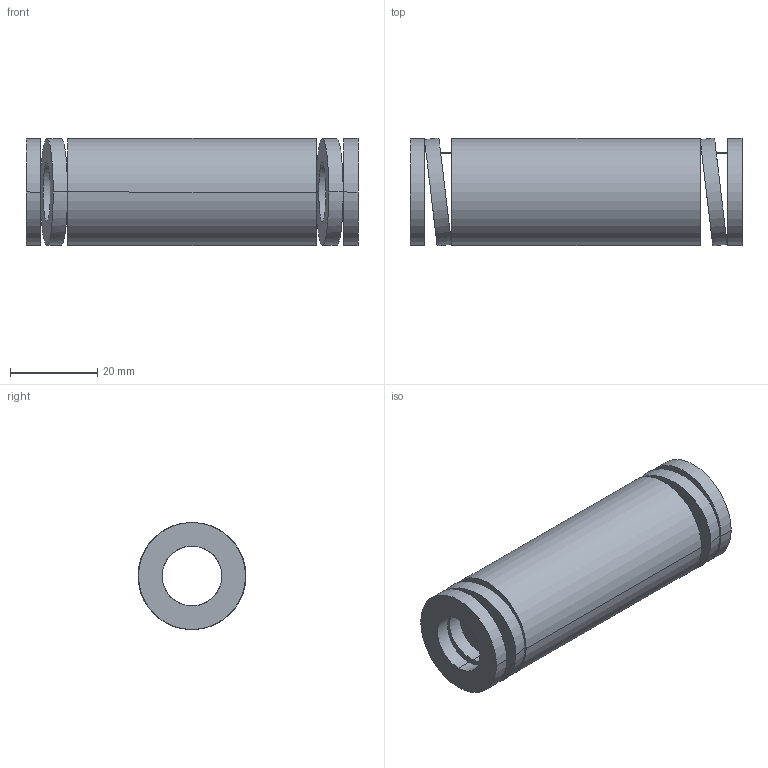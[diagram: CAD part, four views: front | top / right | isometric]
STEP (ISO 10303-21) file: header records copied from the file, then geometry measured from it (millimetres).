
FILE_DESCRIPTION(('CATIA V5 STEP Exchange'),'2;1');
FILE_NAME('C:\Users\Utente\Desktop\IO LAVORO\3D X SITO CF\X SITO\3D files 392B\392-B25-076.stp','2021-08-13T07:47:58+00:00',('none'),('none'),'CATIA Version 5 Release 20 GA (IN-10)','CATIA V5 STEP AP203','none');
FILE_SCHEMA(('CONFIG_CONTROL_DESIGN'));
Length unit declared in the file: millimetre
Products named in the file (1): 392-B25-076
Bounding box: 76 x 24.72 x 24.5 mm (x, y, z)
Volume: 22669.1 mm3; surface area: 11640 mm2
Topology: 1 solids, 1 shells, 38 faces, 92 edges, 64 vertices
Faces by surface type: cylinder 28, plane 10
Entity records: 1602 total; most frequent: CARTESIAN_POINT 719, ORIENTED_EDGE 184, DIRECTION 126, EDGE_CURVE 92, VERTEX_POINT 64, AXIS2_PLACEMENT_3D 61, EDGE_LOOP 56, B_SPLINE_CURVE_WITH_KNOTS 42
